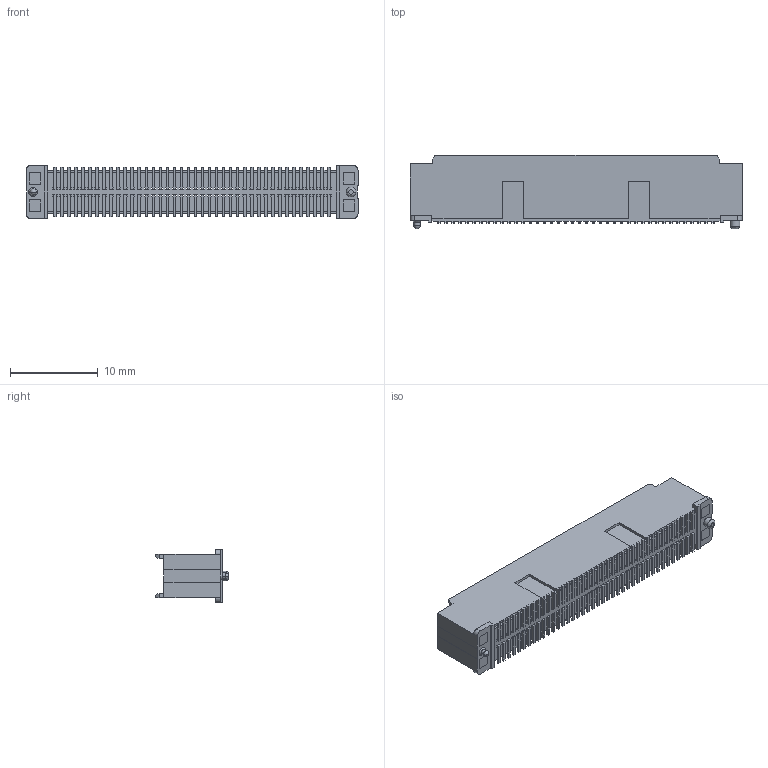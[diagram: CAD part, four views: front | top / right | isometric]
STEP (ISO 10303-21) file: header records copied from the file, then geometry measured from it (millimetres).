
FILE_DESCRIPTION((''),'2;1');
FILE_NAME('61083_084X0XXX','2011-11-23T',('kayyappa'),('FCI - ELX Division'),'PRO/ENGINEER BY PARAMETRIC TECHNOLOGY CORPORATION, 2009400','PRO/ENGINEER BY PARAMETRIC TECHNOLOGY CORPORATION, 2009400','');
FILE_SCHEMA(('CONFIG_CONTROL_DESIGN'));
Length unit declared in the file: millimetre
Products named in the file (1): 61083_084X0XXX
Bounding box: 37.8 x 8.35 x 6 mm (x, y, z)
Volume: 971.2 mm3; surface area: 2360.7 mm2
Topology: 1 solids, 1 shells, 1664 faces, 4747 edges, 2935 vertices
Faces by surface type: plane 1626, cone 18, cylinder 16, sphere 2, bspline 2
Entity records: 52569 total; most frequent: ORIENTED_EDGE 9490, CARTESIAN_POINT 9398, DIRECTION 8125, EDGE_CURVE 4745, VECTOR 4689, LINE 4689, VERTEX_POINT 2935, AXIS2_PLACEMENT_3D 1718
